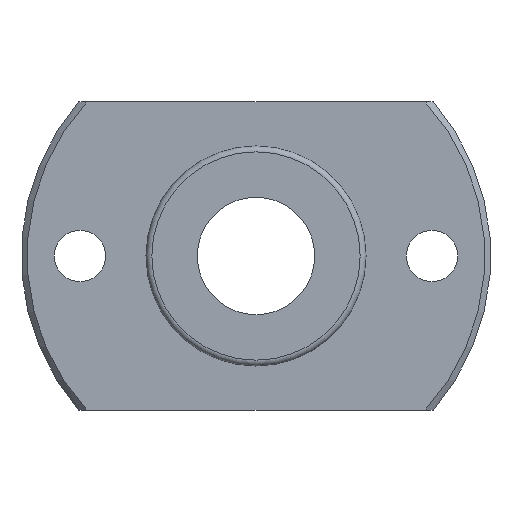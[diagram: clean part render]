
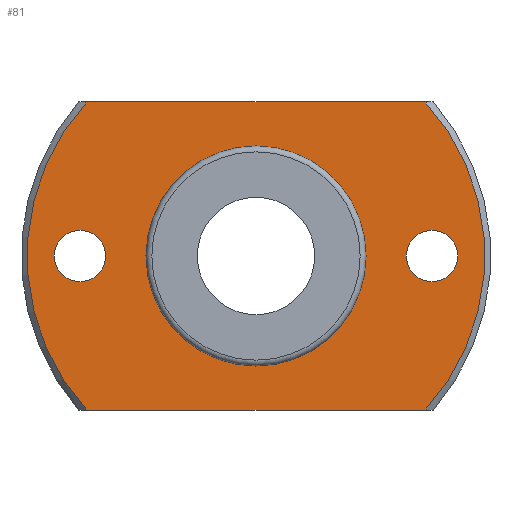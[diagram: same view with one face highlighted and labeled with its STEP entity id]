
A CAD part, left-side view. The second image highlights one B-rep face of the part: STEP entity #81.
In plain terms, the highlighted planar face has unit normal (-1, 0, 0).
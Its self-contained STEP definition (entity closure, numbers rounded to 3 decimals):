
#81=ADVANCED_FACE('',(#121,#122,#123,#124),#125,.T.);
#121=FACE_BOUND('',#198,.T.);
#122=FACE_BOUND('',#199,.T.);
#123=FACE_BOUND('',#200,.T.);
#124=FACE_OUTER_BOUND('',#201,.T.);
#125=PLANE('',#202);
#198=EDGE_LOOP('',(#287));
#199=EDGE_LOOP('',(#288));
#200=EDGE_LOOP('',(#289));
#201=EDGE_LOOP('',(#290,#291,#292,#293));
#202=AXIS2_PLACEMENT_3D('',#294,#295,#296);
#287=ORIENTED_EDGE('',*,*,#436,.F.);
#288=ORIENTED_EDGE('',*,*,#437,.T.);
#289=ORIENTED_EDGE('',*,*,#429,.T.);
#290=ORIENTED_EDGE('',*,*,#438,.T.);
#291=ORIENTED_EDGE('',*,*,#439,.T.);
#292=ORIENTED_EDGE('',*,*,#440,.T.);
#293=ORIENTED_EDGE('',*,*,#441,.T.);
#294=CARTESIAN_POINT('',(-5.0,0.,11.475));
#295=DIRECTION('',(-1.0,0.,0.));
#296=DIRECTION('',(0.,-1.0,0.));
#429=EDGE_CURVE('',#476,#476,#477,.T.);
#436=EDGE_CURVE('',#490,#490,#491,.T.);
#437=EDGE_CURVE('',#492,#492,#493,.T.);
#438=EDGE_CURVE('',#494,#495,#496,.T.);
#439=EDGE_CURVE('',#495,#497,#498,.T.);
#440=EDGE_CURVE('',#497,#499,#500,.T.);
#441=EDGE_CURVE('',#499,#494,#501,.T.);
#476=VERTEX_POINT('',#556);
#477=CIRCLE('',#557,1.75);
#490=VERTEX_POINT('',#570);
#491=CIRCLE('',#571,7.35);
#492=VERTEX_POINT('',#572);
#493=CIRCLE('',#573,1.75);
#494=VERTEX_POINT('',#574);
#495=VERTEX_POINT('',#575);
#496=CIRCLE('',#576,15.6);
#497=VERTEX_POINT('',#577);
#498=LINE('',#578,#579);
#499=VERTEX_POINT('',#580);
#500=CIRCLE('',#581,15.6);
#501=LINE('',#582,#583);
#556=CARTESIAN_POINT('',(-5.0,-13.75,0.));
#557=AXIS2_PLACEMENT_3D('',#671,#672,#673);
#570=CARTESIAN_POINT('',(-5.0,0.,7.35));
#571=AXIS2_PLACEMENT_3D('',#692,#693,#694);
#572=CARTESIAN_POINT('',(-5.0,10.25,0.));
#573=AXIS2_PLACEMENT_3D('',#695,#696,#697);
#574=CARTESIAN_POINT('',(-5.0,11.537,10.5));
#575=CARTESIAN_POINT('',(-5.0,11.537,-10.5));
#576=AXIS2_PLACEMENT_3D('',#698,#699,#700);
#577=CARTESIAN_POINT('',(-5.0,-11.537,-10.5));
#578=CARTESIAN_POINT('',(-5.0,0.,-10.5));
#579=VECTOR('',#701,1.0);
#580=CARTESIAN_POINT('',(-5.0,-11.537,10.5));
#581=AXIS2_PLACEMENT_3D('',#702,#703,#704);
#582=CARTESIAN_POINT('',(-5.0,0.,10.5));
#583=VECTOR('',#705,1.0);
#671=CARTESIAN_POINT('',(-5.0,-12.0,0.));
#672=DIRECTION('',(1.0,0.,0.));
#673=DIRECTION('',(0.,1.0,0.));
#692=CARTESIAN_POINT('',(-5.0,0.,0.));
#693=DIRECTION('',(-1.0,0.,0.));
#694=DIRECTION('',(0.,0.0,1.0));
#695=CARTESIAN_POINT('',(-5.0,12.0,0.));
#696=DIRECTION('',(1.0,0.,0.));
#697=DIRECTION('',(0.,1.0,0.));
#698=CARTESIAN_POINT('',(-5.0,0.,0.));
#699=DIRECTION('',(-1.0,0.,0.));
#700=DIRECTION('',(0.,0.0,1.0));
#701=DIRECTION('',(0.,-1.0,0.0));
#702=CARTESIAN_POINT('',(-5.0,0.,0.));
#703=DIRECTION('',(-1.0,0.,0.));
#704=DIRECTION('',(0.,0.0,1.0));
#705=DIRECTION('',(0.,1.0,0.0));
